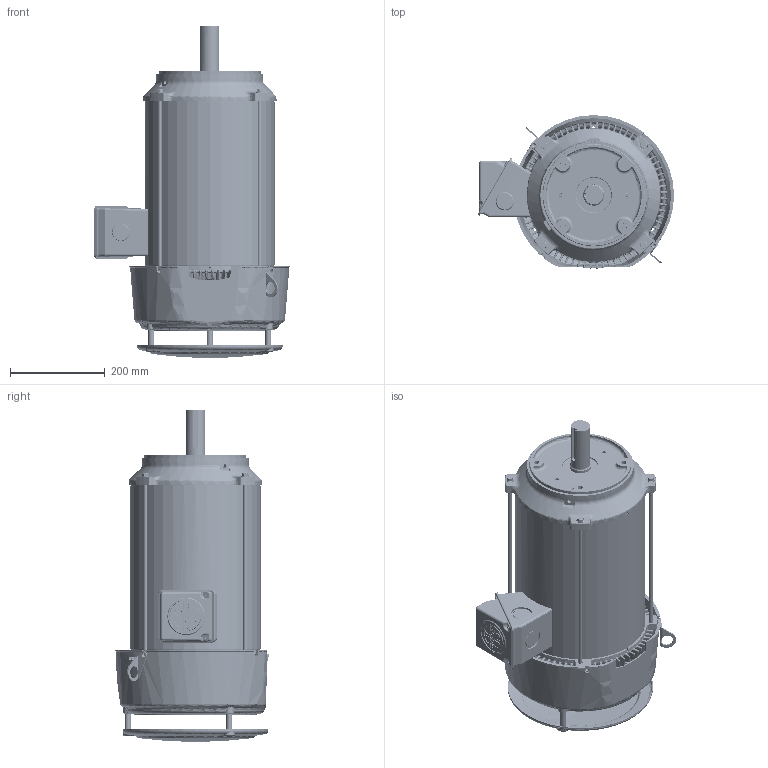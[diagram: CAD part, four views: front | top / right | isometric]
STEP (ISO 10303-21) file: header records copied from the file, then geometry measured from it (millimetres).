
FILE_DESCRIPTION((''),'2;1');
FILE_NAME('250RS_CFACE_ASSY_ASM','2021-02-28T07:26:58',('EMD2341'),('Nidec Motor Corporation'),'CREO PARAMETRIC BY PTC INC, 2019080','CREO PARAMETRIC BY PTC INC, 2019080','');
FILE_SCHEMA(('CONFIG_CONTROL_DESIGN'));
Length unit declared in the file: inch
Products named in the file (20): 2091638_AF0; 0370425-BKT_AF1; 2033996-005_AF1; 2087907_ASM; 0375099-BKT_AF11; 2033996-004_AF1; 2078169_ASM; 0172877; 250TC; 0356644; 0587751; 0375602; 0389564; 0364285; 0369609; PRT0001; 0365536; 0364229; 0364236; 250RS_CFACE_ASSY_ASM
Assembly tree (25 placements, depth 3):
  250RS_CFACE_ASSY_ASM
    2091638_AF0
    2087907_ASM
      0370425-BKT_AF1
      2033996-005_AF1
    2078169_ASM
      0375099-BKT_AF11
      2033996-004_AF1
    0172877
    250TC
    0356644
    0587751
    0375602
    0389564  x4
    0364285
    0369609  x2
    PRT0001  x3
    0365536
    0364229
    0364236
Bounding box: 414.87 x 325.35 x 702.61 mm (x, y, z)
Volume: 5907490.5 mm3; surface area: 2191890.6 mm2
Topology: 27 solids, 37 shells, 9057 faces, 21261 edges, 12252 vertices
Faces by surface type: bspline 4841, plane 1270, cylinder 1250, torus 949, cone 545, sphere 202
Entity records: 480564 total; most frequent: CARTESIAN_POINT 308922, ORIENTED_EDGE 41896, DIRECTION 27113, EDGE_CURVE 20961, VERTEX_POINT 12082, AXIS2_PLACEMENT_3D 11341, B_SPLINE_CURVE_WITH_KNOTS 9330, EDGE_LOOP 9160
